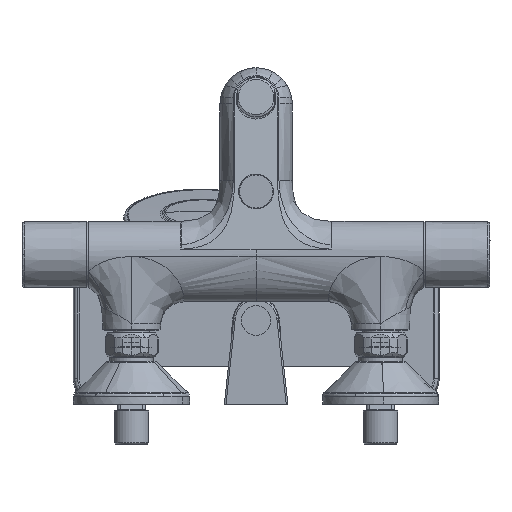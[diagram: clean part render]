
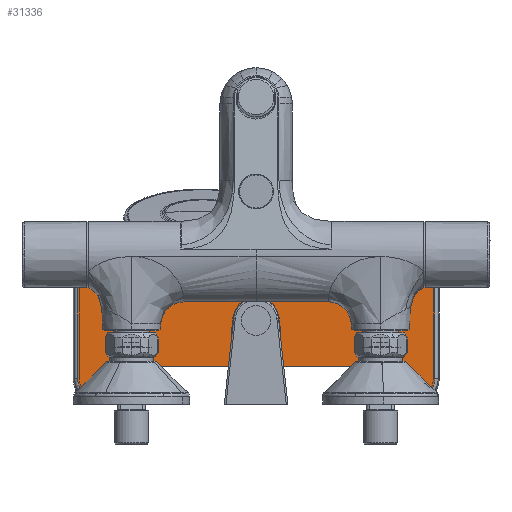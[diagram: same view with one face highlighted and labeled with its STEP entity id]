
A CAD part, front view. The second image highlights one B-rep face of the part: STEP entity #31336.
In plain terms, the highlighted planar face has unit normal (0, -1, 0).
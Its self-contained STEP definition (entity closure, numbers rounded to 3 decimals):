
#872 = CARTESIAN_POINT ( 'NONE',  ( 0., 206.026, 90.117 ) ) ;
#1419 = CARTESIAN_POINT ( 'NONE',  ( -107.47, 206.026, 85.148 ) ) ;
#1722 = CARTESIAN_POINT ( 'NONE',  ( 107.646, 206.026, 15.506 ) ) ;
#1806 = EDGE_CURVE ( 'NONE', #14715, #52088, #10806, .T. ) ;
#1807 = CARTESIAN_POINT ( 'NONE',  ( 95.648, 206.026, 90.117 ) ) ;
#3264 = VERTEX_POINT ( 'NONE', #43052 ) ;
#3269 = DIRECTION ( 'NONE',  ( 0., 0., -1. ) ) ;
#3552 = CARTESIAN_POINT ( 'NONE',  ( -107.47, 206.026, 15.506 ) ) ;
#3715 = LINE ( 'NONE', #42714, #14486 ) ;
#3809 = EDGE_CURVE ( 'NONE', #13119, #48993, #41879, .T. ) ;
#3815 = PLANE ( 'NONE',  #8630 ) ;
#4081 = CARTESIAN_POINT ( 'NONE',  ( 82.32, 206.026, 3.508 ) ) ;
#4554 = ORIENTED_EDGE ( 'NONE', *, *, #34744, .T. ) ;
#4913 = CARTESIAN_POINT ( 'NONE',  ( -107.47, 206.026, 0.5 ) ) ;
#5571 = CARTESIAN_POINT ( 'NONE',  ( 107.646, 206.026, 85.148 ) ) ;
#7359 = EDGE_CURVE ( 'NONE', #50271, #17507, #28668, .T. ) ;
#7641 = CARTESIAN_POINT ( 'NONE',  ( -102.501, 206.026, 3.508 ) ) ;
#8630 = AXIS2_PLACEMENT_3D ( 'NONE', #15994, #24072, #52134 ) ;
#8934 = LINE ( 'NONE', #10605, #31621 ) ;
#9013 = CARTESIAN_POINT ( 'NONE',  ( -82.32, 206.026, 15.535 ) ) ;
#9818 = VECTOR ( 'NONE', #3269, 1000. ) ;
#10001 = EDGE_CURVE ( 'NONE', #45351, #3264, #41735, .T. ) ;
#10605 = CARTESIAN_POINT ( 'NONE',  ( 0., 206.026, 3.508 ) ) ;
#10806 =( BOUNDED_CURVE ( )  B_SPLINE_CURVE ( 3, ( #36141, #5571, #24536, #40313 ),
 .UNSPECIFIED., .F., .T. ) 
 B_SPLINE_CURVE_WITH_KNOTS ( ( 4, 4 ),
 ( 2.356, 3.927 ),
 .UNSPECIFIED. ) 
 CURVE ( )  GEOMETRIC_REPRESENTATION_ITEM ( )  RATIONAL_B_SPLINE_CURVE ( ( 1., 0.805, 0.805, 1. ) ) 
 REPRESENTATION_ITEM ( '' )  );
#10994 = CARTESIAN_POINT ( 'NONE',  ( 75.32, 206.026, 22.535 ) ) ;
#11365 = VERTEX_POINT ( 'NONE', #18367 ) ;
#11685 = DIRECTION ( 'NONE',  ( 1., 0., 0. ) ) ;
#11802 = CARTESIAN_POINT ( 'NONE',  ( 107.646, 206.026, 78.119 ) ) ;
#12062 = LINE ( 'NONE', #872, #32201 ) ;
#12310 = VECTOR ( 'NONE', #33078, 1000. ) ;
#13119 = VERTEX_POINT ( 'NONE', #10994 ) ;
#13435 = EDGE_CURVE ( 'NONE', #38906, #15939, #8934, .T. ) ;
#13632 = ORIENTED_EDGE ( 'NONE', *, *, #37554, .T. ) ;
#13778 = ORIENTED_EDGE ( 'NONE', *, *, #43420, .T. ) ;
#14035 = ORIENTED_EDGE ( 'NONE', *, *, #20769, .T. ) ;
#14150 = AXIS2_PLACEMENT_3D ( 'NONE', #21873, #49912, #25902 ) ;
#14486 = VECTOR ( 'NONE', #14642, 1000. ) ;
#14642 = DIRECTION ( 'NONE',  ( 0., 0., 1. ) ) ;
#14715 = VERTEX_POINT ( 'NONE', #11802 ) ;
#15615 = LINE ( 'NONE', #38420, #39473 ) ;
#15939 = VERTEX_POINT ( 'NONE', #41429 ) ;
#15994 = CARTESIAN_POINT ( 'NONE',  ( 0., 206.026, 0.5 ) ) ;
#16054 = CARTESIAN_POINT ( 'NONE',  ( -107.47, 206.026, 78.119 ) ) ;
#16546 = AXIS2_PLACEMENT_3D ( 'NONE', #46382, #26381, #23819 ) ;
#17019 = LINE ( 'NONE', #38675, #37141 ) ;
#17507 = VERTEX_POINT ( 'NONE', #47468 ) ;
#17774 = CARTESIAN_POINT ( 'NONE',  ( 95.648, 206.026, 3.508 ) ) ;
#17876 = EDGE_CURVE ( 'NONE', #51452, #14715, #3715, .T. ) ;
#18367 = CARTESIAN_POINT ( 'NONE',  ( -95.472, 206.026, 90.117 ) ) ;
#19366 = CARTESIAN_POINT ( 'NONE',  ( -95.472, 206.026, 3.508 ) ) ;
#19622 = CARTESIAN_POINT ( 'NONE',  ( -107.47, 206.026, 8.477 ) ) ;
#20081 = ORIENTED_EDGE ( 'NONE', *, *, #48373, .T. ) ;
#20414 = VECTOR ( 'NONE', #11685, 1000. ) ;
#20644 = EDGE_CURVE ( 'NONE', #43634, #13119, #15615, .T. ) ;
#20769 = EDGE_CURVE ( 'NONE', #17507, #38906, #28792, .T. ) ;
#21346 =( BOUNDED_CURVE ( )  B_SPLINE_CURVE ( 3, ( #41485, #37472, #1419, #29596 ),
 .UNSPECIFIED., .F., .F. ) 
 B_SPLINE_CURVE_WITH_KNOTS ( ( 4, 4 ),
 ( 2.356, 3.927 ),
 .UNSPECIFIED. ) 
 CURVE ( )  GEOMETRIC_REPRESENTATION_ITEM ( )  RATIONAL_B_SPLINE_CURVE ( ( 1., 0.805, 0.805, 1. ) ) 
 REPRESENTATION_ITEM ( '' )  );
#21873 = CARTESIAN_POINT ( 'NONE',  ( -75.32, 206.026, 15.535 ) ) ;
#23367 = CARTESIAN_POINT ( 'NONE',  ( 82.32, 206.026, 0.5 ) ) ;
#23646 = ORIENTED_EDGE ( 'NONE', *, *, #17876, .T. ) ;
#23790 = EDGE_CURVE ( 'NONE', #52088, #11365, #12062, .T. ) ;
#23819 = DIRECTION ( 'NONE',  ( 0., 0., 1. ) ) ;
#23866 = ORIENTED_EDGE ( 'NONE', *, *, #13435, .T. ) ;
#24072 = DIRECTION ( 'NONE',  ( 0., 1., 0. ) ) ;
#24536 = CARTESIAN_POINT ( 'NONE',  ( 102.677, 206.026, 90.117 ) ) ;
#25844 = CARTESIAN_POINT ( 'NONE',  ( 107.646, 206.026, 8.477 ) ) ;
#25902 = DIRECTION ( 'NONE',  ( 0., 0., 1. ) ) ;
#26344 = FACE_OUTER_BOUND ( 'NONE', #28631, .T. ) ;
#26381 = DIRECTION ( 'NONE',  ( 0., 1., 0. ) ) ;
#27401 = ORIENTED_EDGE ( 'NONE', *, *, #20644, .T. ) ;
#27797 = CARTESIAN_POINT ( 'NONE',  ( -75.32, 206.026, 22.535 ) ) ;
#28631 = EDGE_LOOP ( 'NONE', ( #14035, #23866, #13778, #4554, #27401, #47640, #13632, #42626, #46307, #23646, #39448, #48950, #20081, #37261 ) ) ;
#28668 = LINE ( 'NONE', #4913, #12310 ) ;
#28696 = LINE ( 'NONE', #23367, #9818 ) ;
#28792 =( BOUNDED_CURVE ( )  B_SPLINE_CURVE ( 3, ( #3552, #19622, #7641, #35780 ),
 .UNSPECIFIED., .F., .T. ) 
 B_SPLINE_CURVE_WITH_KNOTS ( ( 4, 4 ),
 ( 2.356, 3.927 ),
 .UNSPECIFIED. ) 
 CURVE ( )  GEOMETRIC_REPRESENTATION_ITEM ( )  RATIONAL_B_SPLINE_CURVE ( ( 1., 0.805, 0.805, 1. ) ) 
 REPRESENTATION_ITEM ( '' )  );
#29596 = CARTESIAN_POINT ( 'NONE',  ( -107.47, 206.026, 78.119 ) ) ;
#30162 = VERTEX_POINT ( 'NONE', #9013 ) ;
#31336 = ADVANCED_FACE ( 'NONE', ( #26344 ), #3815, .F. ) ;
#31621 = VECTOR ( 'NONE', #38723, 1000. ) ;
#32201 = VECTOR ( 'NONE', #37147, 1000. ) ;
#33078 = DIRECTION ( 'NONE',  ( 0., 0., -1. ) ) ;
#33846 = CIRCLE ( 'NONE', #14150, 7. ) ;
#34744 = EDGE_CURVE ( 'NONE', #30162, #43634, #33846, .T. ) ;
#35780 = CARTESIAN_POINT ( 'NONE',  ( -95.472, 206.026, 3.508 ) ) ;
#36141 = CARTESIAN_POINT ( 'NONE',  ( 107.646, 206.026, 78.119 ) ) ;
#37141 = VECTOR ( 'NONE', #42731, 1000. ) ;
#37147 = DIRECTION ( 'NONE',  ( -1., 0., 0. ) ) ;
#37261 = ORIENTED_EDGE ( 'NONE', *, *, #7359, .T. ) ;
#37342 = EDGE_CURVE ( 'NONE', #3264, #51452, #48884, .T. ) ;
#37472 = CARTESIAN_POINT ( 'NONE',  ( -102.501, 206.026, 90.117 ) ) ;
#37554 = EDGE_CURVE ( 'NONE', #48993, #45351, #28696, .T. ) ;
#38420 = CARTESIAN_POINT ( 'NONE',  ( 0., 206.026, 22.535 ) ) ;
#38675 = CARTESIAN_POINT ( 'NONE',  ( -82.32, 206.026, 0.5 ) ) ;
#38723 = DIRECTION ( 'NONE',  ( 1., 0., 0. ) ) ;
#38906 = VERTEX_POINT ( 'NONE', #19366 ) ;
#39448 = ORIENTED_EDGE ( 'NONE', *, *, #1806, .T. ) ;
#39473 = VECTOR ( 'NONE', #50336, 1000. ) ;
#40313 = CARTESIAN_POINT ( 'NONE',  ( 95.648, 206.026, 90.117 ) ) ;
#41429 = CARTESIAN_POINT ( 'NONE',  ( -82.32, 206.026, 3.508 ) ) ;
#41485 = CARTESIAN_POINT ( 'NONE',  ( -95.472, 206.026, 90.117 ) ) ;
#41735 = LINE ( 'NONE', #43663, #20414 ) ;
#41797 = CARTESIAN_POINT ( 'NONE',  ( 102.677, 206.026, 3.508 ) ) ;
#41879 = CIRCLE ( 'NONE', #16546, 7. ) ;
#42626 = ORIENTED_EDGE ( 'NONE', *, *, #10001, .T. ) ;
#42714 = CARTESIAN_POINT ( 'NONE',  ( 107.646, 206.026, 0.5 ) ) ;
#42731 = DIRECTION ( 'NONE',  ( 0., 0., 1. ) ) ;
#43052 = CARTESIAN_POINT ( 'NONE',  ( 95.648, 206.026, 3.508 ) ) ;
#43420 = EDGE_CURVE ( 'NONE', #15939, #30162, #17019, .T. ) ;
#43634 = VERTEX_POINT ( 'NONE', #27797 ) ;
#43663 = CARTESIAN_POINT ( 'NONE',  ( 0., 206.026, 3.508 ) ) ;
#45351 = VERTEX_POINT ( 'NONE', #4081 ) ;
#46307 = ORIENTED_EDGE ( 'NONE', *, *, #37342, .T. ) ;
#46382 = CARTESIAN_POINT ( 'NONE',  ( 75.32, 206.026, 15.535 ) ) ;
#47468 = CARTESIAN_POINT ( 'NONE',  ( -107.47, 206.026, 15.506 ) ) ;
#47640 = ORIENTED_EDGE ( 'NONE', *, *, #3809, .T. ) ;
#47938 = CARTESIAN_POINT ( 'NONE',  ( 107.646, 206.026, 15.506 ) ) ;
#48373 = EDGE_CURVE ( 'NONE', #11365, #50271, #21346, .T. ) ;
#48884 =( BOUNDED_CURVE ( )  B_SPLINE_CURVE ( 3, ( #17774, #41797, #25844, #1722 ),
 .UNSPECIFIED., .F., .T. ) 
 B_SPLINE_CURVE_WITH_KNOTS ( ( 4, 4 ),
 ( 2.356, 3.927 ),
 .UNSPECIFIED. ) 
 CURVE ( )  GEOMETRIC_REPRESENTATION_ITEM ( )  RATIONAL_B_SPLINE_CURVE ( ( 1., 0.805, 0.805, 1. ) ) 
 REPRESENTATION_ITEM ( '' )  );
#48950 = ORIENTED_EDGE ( 'NONE', *, *, #23790, .T. ) ;
#48993 = VERTEX_POINT ( 'NONE', #51746 ) ;
#49912 = DIRECTION ( 'NONE',  ( 0., 1., 0. ) ) ;
#50271 = VERTEX_POINT ( 'NONE', #16054 ) ;
#50336 = DIRECTION ( 'NONE',  ( 1., 0., 0. ) ) ;
#51452 = VERTEX_POINT ( 'NONE', #47938 ) ;
#51746 = CARTESIAN_POINT ( 'NONE',  ( 82.32, 206.026, 15.535 ) ) ;
#52088 = VERTEX_POINT ( 'NONE', #1807 ) ;
#52134 = DIRECTION ( 'NONE',  ( 0., 0., 1. ) ) ;
